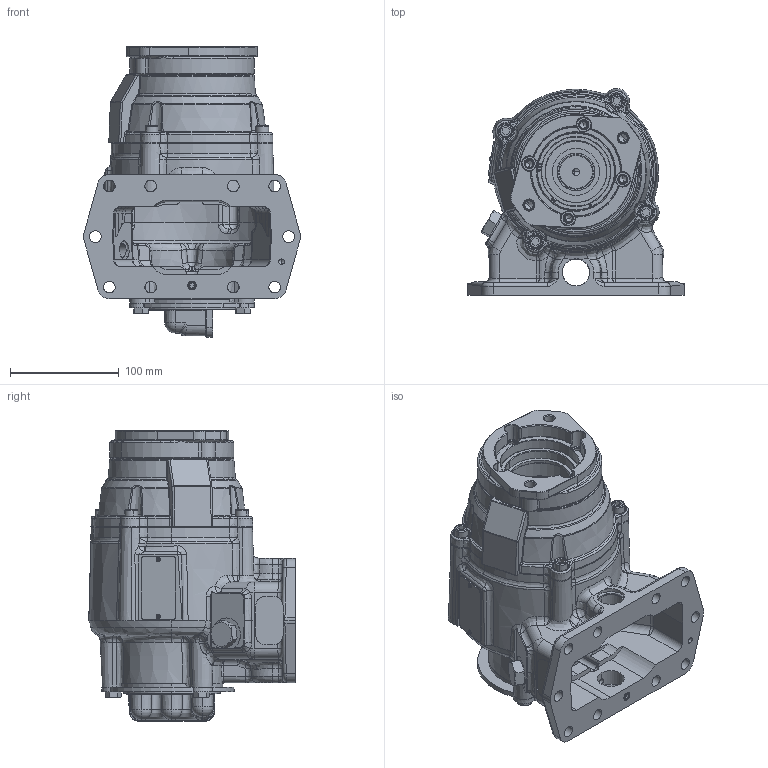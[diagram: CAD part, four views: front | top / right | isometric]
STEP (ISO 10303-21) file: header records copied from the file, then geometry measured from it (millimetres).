
FILE_DESCRIPTION (( 'STEP AP203' ), '1' );
FILE_NAME ('A30-A10XX-MX5TAPX.STEP', '2023-03-07T18:57:08', ( '' ), ( '' ), 'SwSTEP 2.0', 'SolidWorks 2021', '' );
FILE_SCHEMA (( 'CONFIG_CONTROL_DESIGN' ));
Length unit declared in the file: inch
Products named in the file (10): A30-A10XX-MX5TAPX; 19T36588_19T36588; RemoteMountRearCover; 01T43513_5Arrangement; A30-SAE-A-Flange_14T65653.step; 15T64348_DIECAST DESIGN; Part6^A30-A10XX-MX5TAPX; 15T65391DB3; 25T35999TMP; 19T3314_RearCover_HexHeadCapScrew_19T33134
Assembly tree (13 placements, depth 2):
  A30-A10XX-MX5TAPX
    01T43513_5Arrangement
    A30-SAE-A-Flange_14T65653.step
    15T65391DB3
    19T36588_19T36588  x4
    RemoteMountRearCover
    15T64348_DIECAST DESIGN
    19T3314_RearCover_HexHeadCapScrew_19T33134  x3
    25T35999TMP
  Part6^A30-A10XX-MX5TAPX
Bounding box: 199.82 x 190.12 x 267.67 mm (x, y, z)
Volume: 1447866.2 mm3; surface area: 401601.4 mm2
Topology: 24 solids, 24 shells, 2571 faces, 6284 edges, 3789 vertices
Faces by surface type: bspline 742, plane 688, cylinder 583, cone 334, torus 212, sphere 12
Entity records: 110693 total; most frequent: CARTESIAN_POINT 56247, ORIENTED_EDGE 11898, DIRECTION 10088, EDGE_CURVE 5949, AXIS2_PLACEMENT_3D 3913, VERTEX_POINT 3646, EDGE_LOOP 2673, ADVANCED_FACE 2464
